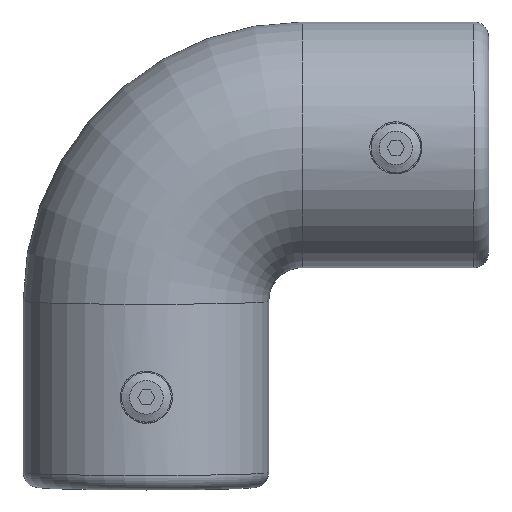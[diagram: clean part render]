
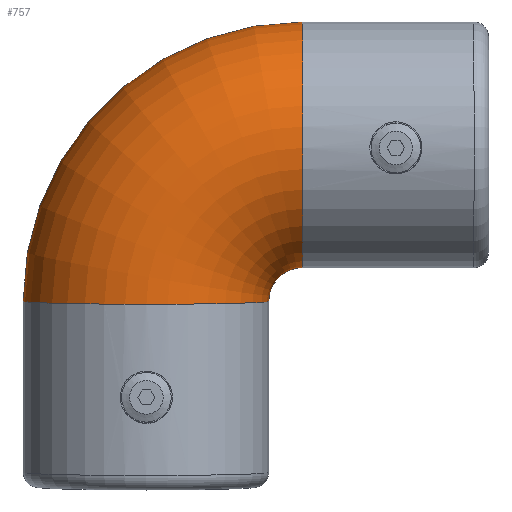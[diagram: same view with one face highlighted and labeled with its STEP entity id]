
A CAD part, front view. The second image highlights one B-rep face of the part: STEP entity #757.
In plain terms, the highlighted toroidal (fillet/blend) face has major radius 42 mm and minor radius 33 mm.
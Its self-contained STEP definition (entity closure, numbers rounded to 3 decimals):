
#238=FACE_OUTER_BOUND('',#290,.T.);
#290=EDGE_LOOP('',(#617,#618,#619,#620));
#329=CIRCLE('',#883,33.);
#332=CIRCLE('',#887,75.);
#336=CIRCLE('',#893,33.);
#337=CIRCLE('',#895,9.);
#366=VERTEX_POINT('',#1220);
#367=VERTEX_POINT('',#1222);
#377=VERTEX_POINT('',#1279);
#380=VERTEX_POINT('',#1289);
#436=EDGE_CURVE('',#366,#367,#329,.T.);
#448=EDGE_CURVE('',#377,#366,#332,.T.);
#453=EDGE_CURVE('',#377,#380,#336,.T.);
#456=EDGE_CURVE('',#380,#367,#337,.T.);
#617=ORIENTED_EDGE('',*,*,#453,.T.);
#618=ORIENTED_EDGE('',*,*,#456,.T.);
#619=ORIENTED_EDGE('',*,*,#436,.F.);
#620=ORIENTED_EDGE('',*,*,#448,.F.);
#740=TOROIDAL_SURFACE('',#915,42.,33.);
#757=ADVANCED_FACE('',(#238),#740,.T.);
#883=AXIS2_PLACEMENT_3D('',#1223,#984,#985);
#887=AXIS2_PLACEMENT_3D('',#1281,#998,#999);
#893=AXIS2_PLACEMENT_3D('',#1291,#1011,#1012);
#895=AXIS2_PLACEMENT_3D('',#1332,#1015,#1016);
#915=AXIS2_PLACEMENT_3D('',#1441,#1063,#1064);
#984=DIRECTION('center_axis',(0.,0.,-1.));
#985=DIRECTION('ref_axis',(1.,0.,0.));
#998=DIRECTION('center_axis',(0.,-1.,0.));
#999=DIRECTION('ref_axis',(0.,0.,1.));
#1011=DIRECTION('center_axis',(-1.,0.,0.));
#1012=DIRECTION('ref_axis',(0.,0.,-1.));
#1015=DIRECTION('center_axis',(0.,-1.,0.));
#1016=DIRECTION('ref_axis',(0.,0.,1.));
#1063=DIRECTION('center_axis',(0.,-1.,0.));
#1064=DIRECTION('ref_axis',(0.,0.,-1.));
#1220=CARTESIAN_POINT('',(-62.5,0.,-12.5));
#1222=CARTESIAN_POINT('',(3.5,0.,-12.5));
#1223=CARTESIAN_POINT('Origin',(-29.5,0.,-12.5));
#1279=CARTESIAN_POINT('',(12.5,0.,62.5));
#1281=CARTESIAN_POINT('Origin',(12.5,0.,-12.5));
#1289=CARTESIAN_POINT('',(12.5,0.,-3.5));
#1291=CARTESIAN_POINT('Origin',(12.5,0.,29.5));
#1332=CARTESIAN_POINT('Origin',(12.5,0.,-12.5));
#1441=CARTESIAN_POINT('Origin',(12.5,0.,-12.5));
